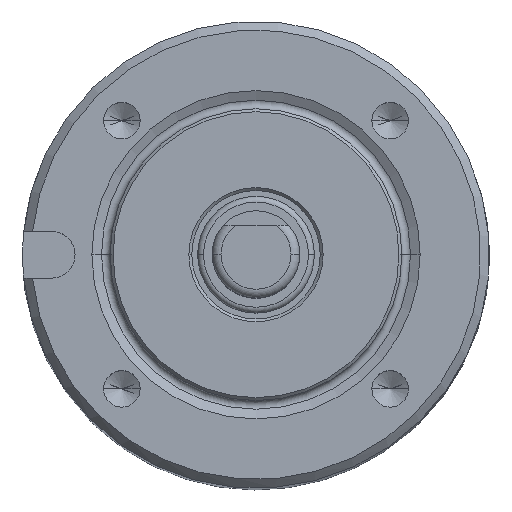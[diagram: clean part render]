
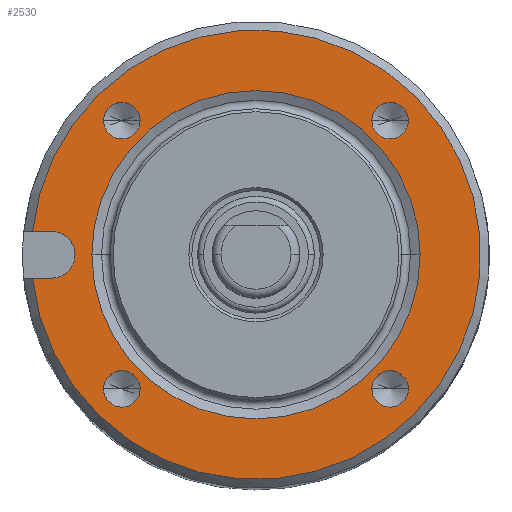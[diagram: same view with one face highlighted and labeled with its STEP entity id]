
A CAD part, top view. The second image highlights one B-rep face of the part: STEP entity #2530.
In plain terms, the highlighted planar face has unit normal (0, 0, 1).
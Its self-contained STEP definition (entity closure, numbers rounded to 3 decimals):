
#25 = CIRCLE ( 'NONE', #4222, 0.625 ) ;
#37 = DIRECTION ( 'NONE',  ( 0., 0., 1. ) ) ;
#43 = CIRCLE ( 'NONE', #1775, 0.625 ) ;
#93 = CARTESIAN_POINT ( 'NONE',  ( 0., 0., 0. ) ) ;
#96 = ORIENTED_EDGE ( 'NONE', *, *, #1186, .F. ) ;
#155 = EDGE_CURVE ( 'NONE', #1098, #1917, #1972, .T. ) ;
#216 = ORIENTED_EDGE ( 'NONE', *, *, #2499, .F. ) ;
#230 = CARTESIAN_POINT ( 'NONE',  ( -7., 0., 0. ) ) ;
#274 = DIRECTION ( 'NONE',  ( 1., 0., 0. ) ) ;
#283 = ORIENTED_EDGE ( 'NONE', *, *, #2284, .F. ) ;
#331 = EDGE_CURVE ( 'NONE', #2028, #993, #2021, .T. ) ;
#358 = EDGE_CURVE ( 'NONE', #3005, #1574, #1562, .T. ) ;
#384 = CIRCLE ( 'NONE', #4172, 5.626 ) ;
#399 = VECTOR ( 'NONE', #4055, 1000. ) ;
#441 = DIRECTION ( 'NONE',  ( 0., 0., 1. ) ) ;
#472 = DIRECTION ( 'NONE',  ( 1., 0., 0. ) ) ;
#482 = CIRCLE ( 'NONE', #5091, 7.7 ) ;
#540 = VERTEX_POINT ( 'NONE', #1879 ) ;
#583 = EDGE_CURVE ( 'NONE', #2173, #540, #43, .T. ) ;
#622 = AXIS2_PLACEMENT_3D ( 'NONE', #3348, #1802, #274 ) ;
#636 = ORIENTED_EDGE ( 'NONE', *, *, #5019, .F. ) ;
#659 = ORIENTED_EDGE ( 'NONE', *, *, #358, .F. ) ;
#676 = CIRCLE ( 'NONE', #4641, 0.625 ) ;
#710 = DIRECTION ( 'NONE',  ( -1., 0., 0. ) ) ;
#775 = CARTESIAN_POINT ( 'NONE',  ( 3.971, 4.596, 0. ) ) ;
#918 = DIRECTION ( 'NONE',  ( 1., 0., 0. ) ) ;
#959 = VERTEX_POINT ( 'NONE', #4509 ) ;
#993 = VERTEX_POINT ( 'NONE', #1172 ) ;
#995 = PLANE ( 'NONE',  #2283 ) ;
#1058 = EDGE_LOOP ( 'NONE', ( #3064, #4938 ) ) ;
#1093 = ORIENTED_EDGE ( 'NONE', *, *, #1269, .T. ) ;
#1098 = VERTEX_POINT ( 'NONE', #1194 ) ;
#1115 = CARTESIAN_POINT ( 'NONE',  ( -5.221, -4.596, 0. ) ) ;
#1165 = AXIS2_PLACEMENT_3D ( 'NONE', #3103, #5082, #3874 ) ;
#1172 = CARTESIAN_POINT ( 'NONE',  ( -7., 0.8, 0. ) ) ;
#1186 = EDGE_CURVE ( 'NONE', #4454, #3328, #4782, .T. ) ;
#1194 = CARTESIAN_POINT ( 'NONE',  ( 3.971, -4.596, 0. ) ) ;
#1269 = EDGE_CURVE ( 'NONE', #4454, #2028, #482, .T. ) ;
#1272 = DIRECTION ( 'NONE',  ( 1., 0., 0. ) ) ;
#1298 = AXIS2_PLACEMENT_3D ( 'NONE', #4087, #1677, #4789 ) ;
#1415 = DIRECTION ( 'NONE',  ( 0., 0., 1. ) ) ;
#1433 = CARTESIAN_POINT ( 'NONE',  ( -3.971, 4.596, 0. ) ) ;
#1475 = AXIS2_PLACEMENT_3D ( 'NONE', #3083, #4629, #2749 ) ;
#1562 = CIRCLE ( 'NONE', #3947, 0.625 ) ;
#1574 = VERTEX_POINT ( 'NONE', #4825 ) ;
#1579 = CIRCLE ( 'NONE', #2901, 0.625 ) ;
#1643 = CARTESIAN_POINT ( 'NONE',  ( 4.596, -4.596, 0. ) ) ;
#1672 = DIRECTION ( 'NONE',  ( -1., 0., 0. ) ) ;
#1677 = DIRECTION ( 'NONE',  ( 0., 0., 1. ) ) ;
#1728 = EDGE_LOOP ( 'NONE', ( #3006, #5007 ) ) ;
#1742 = CARTESIAN_POINT ( 'NONE',  ( 0., 0., 0. ) ) ;
#1775 = AXIS2_PLACEMENT_3D ( 'NONE', #2710, #3068, #3091 ) ;
#1802 = DIRECTION ( 'NONE',  ( 0., 0., 1. ) ) ;
#1812 = DIRECTION ( 'NONE',  ( 1., 0., 0. ) ) ;
#1816 = ORIENTED_EDGE ( 'NONE', *, *, #331, .T. ) ;
#1832 = CARTESIAN_POINT ( 'NONE',  ( 5.221, 4.596, 0. ) ) ;
#1863 = AXIS2_PLACEMENT_3D ( 'NONE', #1742, #2852, #2467 ) ;
#1879 = CARTESIAN_POINT ( 'NONE',  ( -5.221, 4.596, 0. ) ) ;
#1917 = VERTEX_POINT ( 'NONE', #5051 ) ;
#1972 = CIRCLE ( 'NONE', #1475, 0.625 ) ;
#1981 = EDGE_LOOP ( 'NONE', ( #2242, #283 ) ) ;
#2021 = LINE ( 'NONE', #2490, #399 ) ;
#2028 = VERTEX_POINT ( 'NONE', #5104 ) ;
#2080 = CIRCLE ( 'NONE', #1165, 0.625 ) ;
#2173 = VERTEX_POINT ( 'NONE', #1433 ) ;
#2242 = ORIENTED_EDGE ( 'NONE', *, *, #583, .F. ) ;
#2251 = EDGE_CURVE ( 'NONE', #4967, #2966, #676, .T. ) ;
#2268 = FACE_BOUND ( 'NONE', #1058, .T. ) ;
#2283 = AXIS2_PLACEMENT_3D ( 'NONE', #2581, #3525, #710 ) ;
#2284 = EDGE_CURVE ( 'NONE', #540, #2173, #25, .T. ) ;
#2467 = DIRECTION ( 'NONE',  ( 1., 0., 0. ) ) ;
#2490 = CARTESIAN_POINT ( 'NONE',  ( -9., 0.8, 0. ) ) ;
#2499 = EDGE_CURVE ( 'NONE', #3455, #993, #3109, .T. ) ;
#2530 = ADVANCED_FACE ( 'NONE', ( #3399, #4969, #3044, #2268, #2969, #4537 ), #995, .F. ) ;
#2581 = CARTESIAN_POINT ( 'NONE',  ( 0., 5.626, 0. ) ) ;
#2710 = CARTESIAN_POINT ( 'NONE',  ( -4.596, 4.596, 0. ) ) ;
#2749 = DIRECTION ( 'NONE',  ( 1., 0., 0. ) ) ;
#2776 = DIRECTION ( 'NONE',  ( 1., 0., 0. ) ) ;
#2780 = ORIENTED_EDGE ( 'NONE', *, *, #4866, .F. ) ;
#2795 = VECTOR ( 'NONE', #1272, 1000. ) ;
#2842 = VERTEX_POINT ( 'NONE', #3414 ) ;
#2852 = DIRECTION ( 'NONE',  ( 0., 0., 1. ) ) ;
#2857 = EDGE_LOOP ( 'NONE', ( #4129, #2780 ) ) ;
#2901 = AXIS2_PLACEMENT_3D ( 'NONE', #1643, #4009, #472 ) ;
#2966 = VERTEX_POINT ( 'NONE', #775 ) ;
#2969 = FACE_BOUND ( 'NONE', #1981, .T. ) ;
#3005 = VERTEX_POINT ( 'NONE', #1115 ) ;
#3006 = ORIENTED_EDGE ( 'NONE', *, *, #4325, .F. ) ;
#3044 = FACE_BOUND ( 'NONE', #1728, .T. ) ;
#3063 = CARTESIAN_POINT ( 'NONE',  ( 4.596, 4.596, 0. ) ) ;
#3064 = ORIENTED_EDGE ( 'NONE', *, *, #2251, .F. ) ;
#3068 = DIRECTION ( 'NONE',  ( 0., 0., 1. ) ) ;
#3083 = CARTESIAN_POINT ( 'NONE',  ( 4.596, -4.596, 0. ) ) ;
#3091 = DIRECTION ( 'NONE',  ( 1., 0., 0. ) ) ;
#3103 = CARTESIAN_POINT ( 'NONE',  ( 4.596, 4.596, 0. ) ) ;
#3109 = CIRCLE ( 'NONE', #622, 0.8 ) ;
#3132 = CARTESIAN_POINT ( 'NONE',  ( -6.2, 0., 0. ) ) ;
#3171 = EDGE_CURVE ( 'NONE', #2842, #959, #4335, .T. ) ;
#3188 = CARTESIAN_POINT ( 'NONE',  ( -4.596, 4.596, 0. ) ) ;
#3275 = CIRCLE ( 'NONE', #1298, 0.625 ) ;
#3322 = EDGE_CURVE ( 'NONE', #3328, #3455, #3346, .T. ) ;
#3328 = VERTEX_POINT ( 'NONE', #4898 ) ;
#3346 = CIRCLE ( 'NONE', #3506, 0.8 ) ;
#3348 = CARTESIAN_POINT ( 'NONE',  ( -7., 0., 0. ) ) ;
#3399 = FACE_BOUND ( 'NONE', #2857, .T. ) ;
#3408 = EDGE_CURVE ( 'NONE', #2966, #4967, #2080, .T. ) ;
#3414 = CARTESIAN_POINT ( 'NONE',  ( 5.626, 0., 0. ) ) ;
#3455 = VERTEX_POINT ( 'NONE', #3132 ) ;
#3506 = AXIS2_PLACEMENT_3D ( 'NONE', #230, #3791, #1812 ) ;
#3525 = DIRECTION ( 'NONE',  ( 0., 0., -1. ) ) ;
#3590 = DIRECTION ( 'NONE',  ( 1., 0., 0. ) ) ;
#3668 = CARTESIAN_POINT ( 'NONE',  ( -9., -0.8, 0. ) ) ;
#3791 = DIRECTION ( 'NONE',  ( 0., 0., 1. ) ) ;
#3874 = DIRECTION ( 'NONE',  ( 1., 0., 0. ) ) ;
#3947 = AXIS2_PLACEMENT_3D ( 'NONE', #4342, #441, #3590 ) ;
#3953 = EDGE_LOOP ( 'NONE', ( #636, #659 ) ) ;
#4009 = DIRECTION ( 'NONE',  ( 0., 0., 1. ) ) ;
#4012 = ORIENTED_EDGE ( 'NONE', *, *, #3322, .F. ) ;
#4055 = DIRECTION ( 'NONE',  ( 1., 0., 0. ) ) ;
#4087 = CARTESIAN_POINT ( 'NONE',  ( -4.596, -4.596, 0. ) ) ;
#4129 = ORIENTED_EDGE ( 'NONE', *, *, #3171, .F. ) ;
#4172 = AXIS2_PLACEMENT_3D ( 'NONE', #4945, #1415, #4564 ) ;
#4196 = EDGE_LOOP ( 'NONE', ( #96, #1093, #1816, #216, #4012 ) ) ;
#4222 = AXIS2_PLACEMENT_3D ( 'NONE', #3188, #5038, #2776 ) ;
#4325 = EDGE_CURVE ( 'NONE', #1917, #1098, #1579, .T. ) ;
#4335 = CIRCLE ( 'NONE', #1863, 5.626 ) ;
#4342 = CARTESIAN_POINT ( 'NONE',  ( -4.596, -4.596, 0. ) ) ;
#4454 = VERTEX_POINT ( 'NONE', #5018 ) ;
#4509 = CARTESIAN_POINT ( 'NONE',  ( -5.626, 0., 0. ) ) ;
#4537 = FACE_OUTER_BOUND ( 'NONE', #4196, .T. ) ;
#4564 = DIRECTION ( 'NONE',  ( 1., 0., 0. ) ) ;
#4629 = DIRECTION ( 'NONE',  ( 0., 0., 1. ) ) ;
#4641 = AXIS2_PLACEMENT_3D ( 'NONE', #3063, #5014, #918 ) ;
#4782 = LINE ( 'NONE', #3668, #2795 ) ;
#4789 = DIRECTION ( 'NONE',  ( 1., 0., 0. ) ) ;
#4825 = CARTESIAN_POINT ( 'NONE',  ( -3.971, -4.596, 0. ) ) ;
#4866 = EDGE_CURVE ( 'NONE', #959, #2842, #384, .T. ) ;
#4898 = CARTESIAN_POINT ( 'NONE',  ( -7., -0.8, 0. ) ) ;
#4938 = ORIENTED_EDGE ( 'NONE', *, *, #3408, .F. ) ;
#4945 = CARTESIAN_POINT ( 'NONE',  ( 0., 0., 0. ) ) ;
#4967 = VERTEX_POINT ( 'NONE', #1832 ) ;
#4969 = FACE_BOUND ( 'NONE', #3953, .T. ) ;
#5007 = ORIENTED_EDGE ( 'NONE', *, *, #155, .F. ) ;
#5014 = DIRECTION ( 'NONE',  ( 0., 0., 1. ) ) ;
#5018 = CARTESIAN_POINT ( 'NONE',  ( -7.658, -0.8, 0. ) ) ;
#5019 = EDGE_CURVE ( 'NONE', #1574, #3005, #3275, .T. ) ;
#5038 = DIRECTION ( 'NONE',  ( 0., 0., 1. ) ) ;
#5051 = CARTESIAN_POINT ( 'NONE',  ( 5.221, -4.596, 0. ) ) ;
#5082 = DIRECTION ( 'NONE',  ( 0., 0., 1. ) ) ;
#5091 = AXIS2_PLACEMENT_3D ( 'NONE', #93, #37, #1672 ) ;
#5104 = CARTESIAN_POINT ( 'NONE',  ( -7.658, 0.8, 0. ) ) ;
